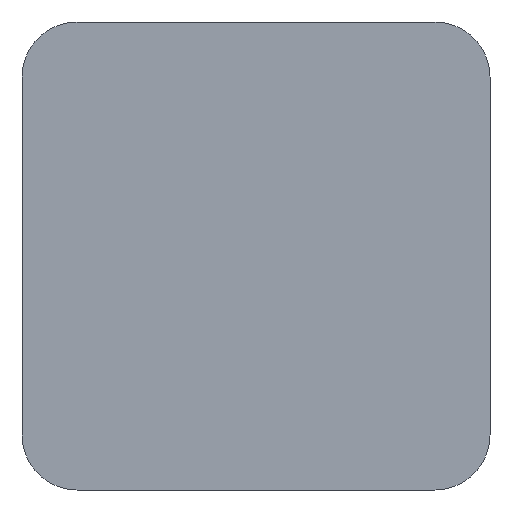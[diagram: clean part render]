
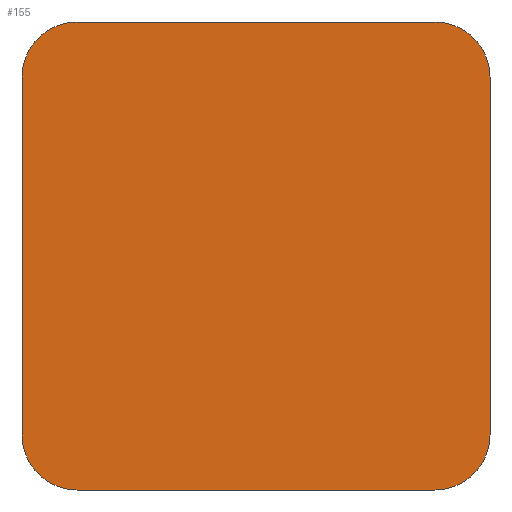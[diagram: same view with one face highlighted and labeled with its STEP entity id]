
A CAD part, front view. The second image highlights one B-rep face of the part: STEP entity #155.
In plain terms, the highlighted planar face has unit normal (0, -1, 0).
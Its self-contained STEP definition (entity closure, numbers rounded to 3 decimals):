
#39 = EDGE_CURVE('',#40,#42,#44,.T.);
#40 = VERTEX_POINT('',#41);
#41 = CARTESIAN_POINT('',(-25.5,-26.5,-19.5));
#42 = VERTEX_POINT('',#43);
#43 = CARTESIAN_POINT('',(-25.5,-26.5,19.5));
#44 = SURFACE_CURVE('',#45,(#49,#61),.PCURVE_S1.);
#45 = LINE('',#46,#47);
#46 = CARTESIAN_POINT('',(-25.5,-26.5,-25.5));
#47 = VECTOR('',#48,1.);
#48 = DIRECTION('',(0.,0.,1.));
#49 = PCURVE('',#50,#55);
#50 = PLANE('',#51);
#51 = AXIS2_PLACEMENT_3D('',#52,#53,#54);
#52 = CARTESIAN_POINT('',(-25.5,-26.5,-25.5));
#53 = DIRECTION('',(1.,0.,-0.));
#54 = DIRECTION('',(0.,0.,1.));
#55 = DEFINITIONAL_REPRESENTATION('',(#56),#60);
#56 = LINE('',#57,#58);
#57 = CARTESIAN_POINT('',(0.,0.));
#58 = VECTOR('',#59,1.);
#59 = DIRECTION('',(1.,0.));
#60 = ( GEOMETRIC_REPRESENTATION_CONTEXT(2) 
PARAMETRIC_REPRESENTATION_CONTEXT() REPRESENTATION_CONTEXT('2D SPACE',''
  ) );
#61 = PCURVE('',#62,#67);
#62 = PLANE('',#63);
#63 = AXIS2_PLACEMENT_3D('',#64,#65,#66);
#64 = CARTESIAN_POINT('',(-25.5,-26.5,-25.5));
#65 = DIRECTION('',(-0.,1.,0.));
#66 = DIRECTION('',(0.,0.,1.));
#67 = DEFINITIONAL_REPRESENTATION('',(#68),#72);
#68 = LINE('',#69,#70);
#69 = CARTESIAN_POINT('',(0.,0.));
#70 = VECTOR('',#71,1.);
#71 = DIRECTION('',(1.,0.));
#72 = ( GEOMETRIC_REPRESENTATION_CONTEXT(2) 
PARAMETRIC_REPRESENTATION_CONTEXT() REPRESENTATION_CONTEXT('2D SPACE',''
  ) );
#90 = CYLINDRICAL_SURFACE('',#91,6.);
#91 = AXIS2_PLACEMENT_3D('',#92,#93,#94);
#92 = CARTESIAN_POINT('',(-19.5,-26.5,-19.5));
#93 = DIRECTION('',(-0.,1.,0.));
#94 = DIRECTION('',(-1.,-0.,0.));
#144 = CYLINDRICAL_SURFACE('',#145,6.);
#145 = AXIS2_PLACEMENT_3D('',#146,#147,#148);
#146 = CARTESIAN_POINT('',(-19.5,-26.5,19.5));
#147 = DIRECTION('',(-0.,1.,0.));
#148 = DIRECTION('',(-1.,-0.,0.));
#155 = ADVANCED_FACE('',(#156),#62,.F.);
#156 = FACE_BOUND('',#157,.F.);
#157 = EDGE_LOOP('',(#158,#188,#214,#215,#239,#267,#300,#328));
#158 = ORIENTED_EDGE('',*,*,#159,.F.);
#159 = EDGE_CURVE('',#160,#162,#164,.T.);
#160 = VERTEX_POINT('',#161);
#161 = CARTESIAN_POINT('',(-19.5,-26.5,-25.5));
#162 = VERTEX_POINT('',#163);
#163 = CARTESIAN_POINT('',(19.5,-26.5,-25.5));
#164 = SURFACE_CURVE('',#165,(#169,#176),.PCURVE_S1.);
#165 = LINE('',#166,#167);
#166 = CARTESIAN_POINT('',(-25.5,-26.5,-25.5));
#167 = VECTOR('',#168,1.);
#168 = DIRECTION('',(1.,0.,-0.));
#169 = PCURVE('',#62,#170);
#170 = DEFINITIONAL_REPRESENTATION('',(#171),#175);
#171 = LINE('',#172,#173);
#172 = CARTESIAN_POINT('',(0.,0.));
#173 = VECTOR('',#174,1.);
#174 = DIRECTION('',(0.,1.));
#175 = ( GEOMETRIC_REPRESENTATION_CONTEXT(2) 
PARAMETRIC_REPRESENTATION_CONTEXT() REPRESENTATION_CONTEXT('2D SPACE',''
  ) );
#176 = PCURVE('',#177,#182);
#177 = PLANE('',#178);
#178 = AXIS2_PLACEMENT_3D('',#179,#180,#181);
#179 = CARTESIAN_POINT('',(-25.5,-26.5,-25.5));
#180 = DIRECTION('',(0.,0.,1.));
#181 = DIRECTION('',(1.,0.,-0.));
#182 = DEFINITIONAL_REPRESENTATION('',(#183),#187);
#183 = LINE('',#184,#185);
#184 = CARTESIAN_POINT('',(0.,0.));
#185 = VECTOR('',#186,1.);
#186 = DIRECTION('',(1.,0.));
#187 = ( GEOMETRIC_REPRESENTATION_CONTEXT(2) 
PARAMETRIC_REPRESENTATION_CONTEXT() REPRESENTATION_CONTEXT('2D SPACE',''
  ) );
#188 = ORIENTED_EDGE('',*,*,#189,.F.);
#189 = EDGE_CURVE('',#40,#160,#190,.T.);
#190 = SURFACE_CURVE('',#191,(#196,#207),.PCURVE_S1.);
#191 = CIRCLE('',#192,6.);
#192 = AXIS2_PLACEMENT_3D('',#193,#194,#195);
#193 = CARTESIAN_POINT('',(-19.5,-26.5,-19.5));
#194 = DIRECTION('',(0.,-1.,0.));
#195 = DIRECTION('',(0.,0.,1.));
#196 = PCURVE('',#62,#197);
#197 = DEFINITIONAL_REPRESENTATION('',(#198),#206);
#198 = ( BOUNDED_CURVE() B_SPLINE_CURVE(2,(#199,#200,#201,#202,#203,#204
,#205),.UNSPECIFIED.,.T.,.F.) B_SPLINE_CURVE_WITH_KNOTS((1,2,2,2,2,1),(
    -2.094,0.,2.094,4.189,6.283,
8.378),.UNSPECIFIED.) CURVE() GEOMETRIC_REPRESENTATION_ITEM() 
RATIONAL_B_SPLINE_CURVE((1.,0.5,1.,0.5,1.,0.5,1.)) REPRESENTATION_ITEM(
  '') );
#199 = CARTESIAN_POINT('',(12.,6.));
#200 = CARTESIAN_POINT('',(12.,-4.392));
#201 = CARTESIAN_POINT('',(3.,0.804));
#202 = CARTESIAN_POINT('',(-6.,6.));
#203 = CARTESIAN_POINT('',(3.,11.196));
#204 = CARTESIAN_POINT('',(12.,16.392));
#205 = CARTESIAN_POINT('',(12.,6.));
#206 = ( GEOMETRIC_REPRESENTATION_CONTEXT(2) 
PARAMETRIC_REPRESENTATION_CONTEXT() REPRESENTATION_CONTEXT('2D SPACE',''
  ) );
#207 = PCURVE('',#90,#208);
#208 = DEFINITIONAL_REPRESENTATION('',(#209),#213);
#209 = LINE('',#210,#211);
#210 = CARTESIAN_POINT('',(1.571,-0.));
#211 = VECTOR('',#212,1.);
#212 = DIRECTION('',(-1.,0.));
#213 = ( GEOMETRIC_REPRESENTATION_CONTEXT(2) 
PARAMETRIC_REPRESENTATION_CONTEXT() REPRESENTATION_CONTEXT('2D SPACE',''
  ) );
#214 = ORIENTED_EDGE('',*,*,#39,.T.);
#215 = ORIENTED_EDGE('',*,*,#216,.T.);
#216 = EDGE_CURVE('',#42,#217,#219,.T.);
#217 = VERTEX_POINT('',#218);
#218 = CARTESIAN_POINT('',(-19.5,-26.5,25.5));
#219 = SURFACE_CURVE('',#220,(#225,#232),.PCURVE_S1.);
#220 = CIRCLE('',#221,6.);
#221 = AXIS2_PLACEMENT_3D('',#222,#223,#224);
#222 = CARTESIAN_POINT('',(-19.5,-26.5,19.5));
#223 = DIRECTION('',(-0.,1.,0.));
#224 = DIRECTION('',(0.,0.,1.));
#225 = PCURVE('',#62,#226);
#226 = DEFINITIONAL_REPRESENTATION('',(#227),#231);
#227 = CIRCLE('',#228,6.);
#228 = AXIS2_PLACEMENT_2D('',#229,#230);
#229 = CARTESIAN_POINT('',(45.,6.));
#230 = DIRECTION('',(1.,0.));
#231 = ( GEOMETRIC_REPRESENTATION_CONTEXT(2) 
PARAMETRIC_REPRESENTATION_CONTEXT() REPRESENTATION_CONTEXT('2D SPACE',''
  ) );
#232 = PCURVE('',#144,#233);
#233 = DEFINITIONAL_REPRESENTATION('',(#234),#238);
#234 = LINE('',#235,#236);
#235 = CARTESIAN_POINT('',(-4.712,0.));
#236 = VECTOR('',#237,1.);
#237 = DIRECTION('',(1.,0.));
#238 = ( GEOMETRIC_REPRESENTATION_CONTEXT(2) 
PARAMETRIC_REPRESENTATION_CONTEXT() REPRESENTATION_CONTEXT('2D SPACE',''
  ) );
#239 = ORIENTED_EDGE('',*,*,#240,.T.);
#240 = EDGE_CURVE('',#217,#241,#243,.T.);
#241 = VERTEX_POINT('',#242);
#242 = CARTESIAN_POINT('',(19.5,-26.5,25.5));
#243 = SURFACE_CURVE('',#244,(#248,#255),.PCURVE_S1.);
#244 = LINE('',#245,#246);
#245 = CARTESIAN_POINT('',(-25.5,-26.5,25.5));
#246 = VECTOR('',#247,1.);
#247 = DIRECTION('',(1.,0.,-0.));
#248 = PCURVE('',#62,#249);
#249 = DEFINITIONAL_REPRESENTATION('',(#250),#254);
#250 = LINE('',#251,#252);
#251 = CARTESIAN_POINT('',(51.,0.));
#252 = VECTOR('',#253,1.);
#253 = DIRECTION('',(0.,1.));
#254 = ( GEOMETRIC_REPRESENTATION_CONTEXT(2) 
PARAMETRIC_REPRESENTATION_CONTEXT() REPRESENTATION_CONTEXT('2D SPACE',''
  ) );
#255 = PCURVE('',#256,#261);
#256 = PLANE('',#257);
#257 = AXIS2_PLACEMENT_3D('',#258,#259,#260);
#258 = CARTESIAN_POINT('',(-25.5,-26.5,25.5));
#259 = DIRECTION('',(0.,0.,1.));
#260 = DIRECTION('',(1.,0.,-0.));
#261 = DEFINITIONAL_REPRESENTATION('',(#262),#266);
#262 = LINE('',#263,#264);
#263 = CARTESIAN_POINT('',(0.,0.));
#264 = VECTOR('',#265,1.);
#265 = DIRECTION('',(1.,0.));
#266 = ( GEOMETRIC_REPRESENTATION_CONTEXT(2) 
PARAMETRIC_REPRESENTATION_CONTEXT() REPRESENTATION_CONTEXT('2D SPACE',''
  ) );
#267 = ORIENTED_EDGE('',*,*,#268,.F.);
#268 = EDGE_CURVE('',#269,#241,#271,.T.);
#269 = VERTEX_POINT('',#270);
#270 = CARTESIAN_POINT('',(25.5,-26.5,19.5));
#271 = SURFACE_CURVE('',#272,(#277,#288),.PCURVE_S1.);
#272 = CIRCLE('',#273,6.);
#273 = AXIS2_PLACEMENT_3D('',#274,#275,#276);
#274 = CARTESIAN_POINT('',(19.5,-26.5,19.5));
#275 = DIRECTION('',(0.,-1.,0.));
#276 = DIRECTION('',(0.,0.,1.));
#277 = PCURVE('',#62,#278);
#278 = DEFINITIONAL_REPRESENTATION('',(#279),#287);
#279 = ( BOUNDED_CURVE() B_SPLINE_CURVE(2,(#280,#281,#282,#283,#284,#285
,#286),.UNSPECIFIED.,.T.,.F.) B_SPLINE_CURVE_WITH_KNOTS((1,2,2,2,2,1),(
    -2.094,0.,2.094,4.189,6.283,
8.378),.UNSPECIFIED.) CURVE() GEOMETRIC_REPRESENTATION_ITEM() 
RATIONAL_B_SPLINE_CURVE((1.,0.5,1.,0.5,1.,0.5,1.)) REPRESENTATION_ITEM(
  '') );
#280 = CARTESIAN_POINT('',(51.,45.));
#281 = CARTESIAN_POINT('',(51.,34.608));
#282 = CARTESIAN_POINT('',(42.,39.804));
#283 = CARTESIAN_POINT('',(33.,45.));
#284 = CARTESIAN_POINT('',(42.,50.196));
#285 = CARTESIAN_POINT('',(51.,55.392));
#286 = CARTESIAN_POINT('',(51.,45.));
#287 = ( GEOMETRIC_REPRESENTATION_CONTEXT(2) 
PARAMETRIC_REPRESENTATION_CONTEXT() REPRESENTATION_CONTEXT('2D SPACE',''
  ) );
#288 = PCURVE('',#289,#294);
#289 = CYLINDRICAL_SURFACE('',#290,6.);
#290 = AXIS2_PLACEMENT_3D('',#291,#292,#293);
#291 = CARTESIAN_POINT('',(19.5,-26.5,19.5));
#292 = DIRECTION('',(-0.,1.,0.));
#293 = DIRECTION('',(1.,0.,-0.));
#294 = DEFINITIONAL_REPRESENTATION('',(#295),#299);
#295 = LINE('',#296,#297);
#296 = CARTESIAN_POINT('',(4.712,-0.));
#297 = VECTOR('',#298,1.);
#298 = DIRECTION('',(-1.,0.));
#299 = ( GEOMETRIC_REPRESENTATION_CONTEXT(2) 
PARAMETRIC_REPRESENTATION_CONTEXT() REPRESENTATION_CONTEXT('2D SPACE',''
  ) );
#300 = ORIENTED_EDGE('',*,*,#301,.F.);
#301 = EDGE_CURVE('',#302,#269,#304,.T.);
#302 = VERTEX_POINT('',#303);
#303 = CARTESIAN_POINT('',(25.5,-26.5,-19.5));
#304 = SURFACE_CURVE('',#305,(#309,#316),.PCURVE_S1.);
#305 = LINE('',#306,#307);
#306 = CARTESIAN_POINT('',(25.5,-26.5,-25.5));
#307 = VECTOR('',#308,1.);
#308 = DIRECTION('',(0.,0.,1.));
#309 = PCURVE('',#62,#310);
#310 = DEFINITIONAL_REPRESENTATION('',(#311),#315);
#311 = LINE('',#312,#313);
#312 = CARTESIAN_POINT('',(0.,51.));
#313 = VECTOR('',#314,1.);
#314 = DIRECTION('',(1.,0.));
#315 = ( GEOMETRIC_REPRESENTATION_CONTEXT(2) 
PARAMETRIC_REPRESENTATION_CONTEXT() REPRESENTATION_CONTEXT('2D SPACE',''
  ) );
#316 = PCURVE('',#317,#322);
#317 = PLANE('',#318);
#318 = AXIS2_PLACEMENT_3D('',#319,#320,#321);
#319 = CARTESIAN_POINT('',(25.5,-26.5,-25.5));
#320 = DIRECTION('',(1.,0.,-0.));
#321 = DIRECTION('',(0.,0.,1.));
#322 = DEFINITIONAL_REPRESENTATION('',(#323),#327);
#323 = LINE('',#324,#325);
#324 = CARTESIAN_POINT('',(0.,0.));
#325 = VECTOR('',#326,1.);
#326 = DIRECTION('',(1.,0.));
#327 = ( GEOMETRIC_REPRESENTATION_CONTEXT(2) 
PARAMETRIC_REPRESENTATION_CONTEXT() REPRESENTATION_CONTEXT('2D SPACE',''
  ) );
#328 = ORIENTED_EDGE('',*,*,#329,.T.);
#329 = EDGE_CURVE('',#302,#162,#330,.T.);
#330 = SURFACE_CURVE('',#331,(#336,#343),.PCURVE_S1.);
#331 = CIRCLE('',#332,6.);
#332 = AXIS2_PLACEMENT_3D('',#333,#334,#335);
#333 = CARTESIAN_POINT('',(19.5,-26.5,-19.5));
#334 = DIRECTION('',(-0.,1.,0.));
#335 = DIRECTION('',(0.,0.,1.));
#336 = PCURVE('',#62,#337);
#337 = DEFINITIONAL_REPRESENTATION('',(#338),#342);
#338 = CIRCLE('',#339,6.);
#339 = AXIS2_PLACEMENT_2D('',#340,#341);
#340 = CARTESIAN_POINT('',(6.,45.));
#341 = DIRECTION('',(1.,0.));
#342 = ( GEOMETRIC_REPRESENTATION_CONTEXT(2) 
PARAMETRIC_REPRESENTATION_CONTEXT() REPRESENTATION_CONTEXT('2D SPACE',''
  ) );
#343 = PCURVE('',#344,#349);
#344 = CYLINDRICAL_SURFACE('',#345,6.);
#345 = AXIS2_PLACEMENT_3D('',#346,#347,#348);
#346 = CARTESIAN_POINT('',(19.5,-26.5,-19.5));
#347 = DIRECTION('',(-0.,1.,0.));
#348 = DIRECTION('',(1.,0.,-0.));
#349 = DEFINITIONAL_REPRESENTATION('',(#350),#354);
#350 = LINE('',#351,#352);
#351 = CARTESIAN_POINT('',(-1.571,0.));
#352 = VECTOR('',#353,1.);
#353 = DIRECTION('',(1.,0.));
#354 = ( GEOMETRIC_REPRESENTATION_CONTEXT(2) 
PARAMETRIC_REPRESENTATION_CONTEXT() REPRESENTATION_CONTEXT('2D SPACE',''
  ) );
